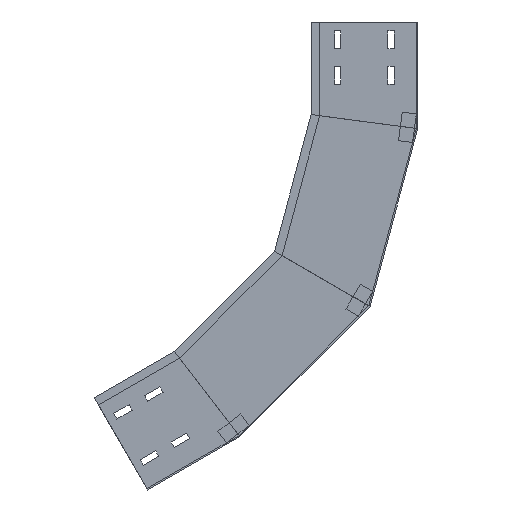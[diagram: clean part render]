
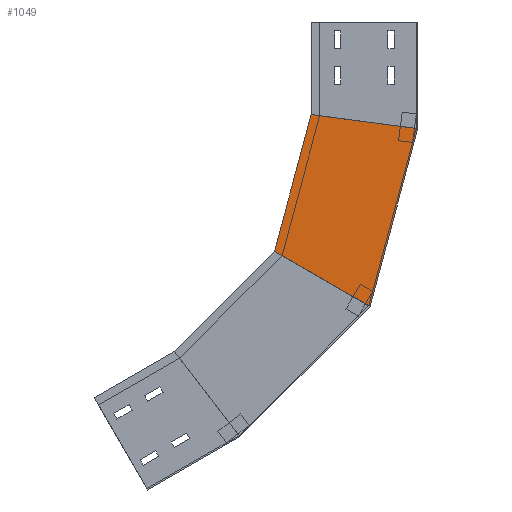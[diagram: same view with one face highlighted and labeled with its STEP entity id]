
A CAD part, left-side view. The second image highlights one B-rep face of the part: STEP entity #1049.
In plain terms, the highlighted planar face has unit normal (-1, 0, 0) as drawn and (1, 0, 0) by its records, which use the part's own axes.
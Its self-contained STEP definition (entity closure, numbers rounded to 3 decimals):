
#8 = DIRECTION ( 'NONE',  ( 0., 0.707, -0.707 ) ) ;
#21 = VECTOR ( 'NONE', #416, 1000. ) ;
#46 = CARTESIAN_POINT ( 'NONE',  ( 0., 67.034, -400.175 ) ) ;
#70 = EDGE_CURVE ( 'NONE', #566, #618, #477, .T. ) ;
#87 = CARTESIAN_POINT ( 'NONE',  ( 0., 125.087, -366.658 ) ) ;
#168 = ORIENTED_EDGE ( 'NONE', *, *, #454, .T. ) ;
#212 = VECTOR ( 'NONE', #807, 1000. ) ;
#356 = CARTESIAN_POINT ( 'NONE',  ( 0., 201.52, -322.529 ) ) ;
#416 = DIRECTION ( 'NONE',  ( 0., 0.707, -0.707 ) ) ;
#436 = VERTEX_POINT ( 'NONE', #1755 ) ;
#444 = EDGE_LOOP ( 'NONE', ( #1499, #611, #168, #2083 ) ) ;
#454 = EDGE_CURVE ( 'NONE', #618, #436, #938, .T. ) ;
#477 = LINE ( 'NONE', #87, #212 ) ;
#555 = DIRECTION ( 'NONE',  ( -1., 0., 0. ) ) ;
#564 = EDGE_CURVE ( 'NONE', #566, #1521, #1069, .T. ) ;
#566 = VERTEX_POINT ( 'NONE', #356 ) ;
#611 = ORIENTED_EDGE ( 'NONE', *, *, #70, .T. ) ;
#618 = VERTEX_POINT ( 'NONE', #726 ) ;
#726 = CARTESIAN_POINT ( 'NONE',  ( 0., 67.034, -400.175 ) ) ;
#743 = CARTESIAN_POINT ( 'NONE',  ( 0., 67.034, -400.175 ) ) ;
#763 = EDGE_CURVE ( 'NONE', #1521, #436, #1789, .T. ) ;
#807 = DIRECTION ( 'NONE',  ( 0., -0.866, -0.5 ) ) ;
#854 = FACE_OUTER_BOUND ( 'NONE', #444, .T. ) ;
#924 = CARTESIAN_POINT ( 'NONE',  ( 0., 270.755, -556.495 ) ) ;
#938 = LINE ( 'NONE', #46, #21 ) ;
#1049 = ADVANCED_FACE ( 'NONE', ( #854 ), #1867, .F. ) ;
#1069 = LINE ( 'NONE', #1712, #1261 ) ;
#1229 = DIRECTION ( 'NONE',  ( 0., 0., 1. ) ) ;
#1261 = VECTOR ( 'NONE', #8, 1000. ) ;
#1499 = ORIENTED_EDGE ( 'NONE', *, *, #564, .F. ) ;
#1521 = VERTEX_POINT ( 'NONE', #2161 ) ;
#1592 = AXIS2_PLACEMENT_3D ( 'NONE', #743, #555, #1229 ) ;
#1599 = DIRECTION ( 'NONE',  ( 0., -0.609, -0.793 ) ) ;
#1712 = CARTESIAN_POINT ( 'NONE',  ( 0., 173.1, -294.109 ) ) ;
#1755 = CARTESIAN_POINT ( 'NONE',  ( 0., 250.175, -583.315 ) ) ;
#1789 = LINE ( 'NONE', #924, #1992 ) ;
#1867 = PLANE ( 'NONE',  #1592 ) ;
#1992 = VECTOR ( 'NONE', #1599, 1000. ) ;
#2083 = ORIENTED_EDGE ( 'NONE', *, *, #763, .F. ) ;
#2161 = CARTESIAN_POINT ( 'NONE',  ( 0., 342.277, -463.286 ) ) ;
